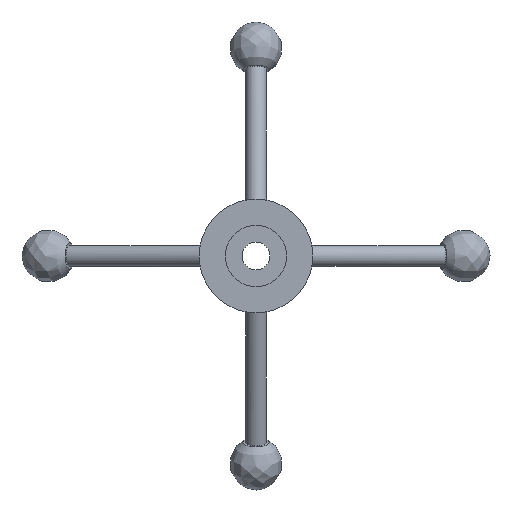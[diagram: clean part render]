
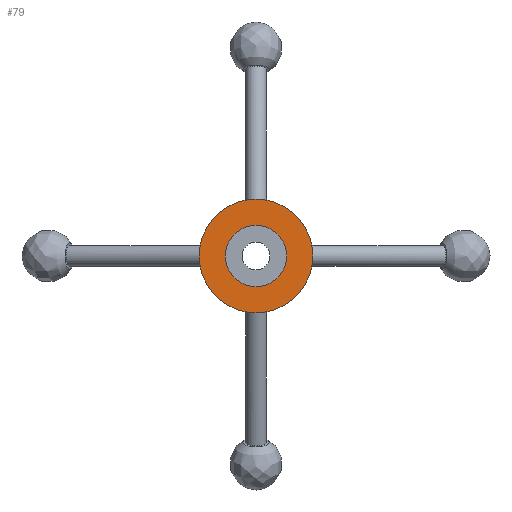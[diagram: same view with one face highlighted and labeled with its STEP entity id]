
A CAD part, front view. The second image highlights one B-rep face of the part: STEP entity #79.
In plain terms, the highlighted planar face has unit normal (0, -1, 0).
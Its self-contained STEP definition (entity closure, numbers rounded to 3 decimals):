
#79 = ADVANCED_FACE( '', ( #107, #108 ), #109, .F. );
#107 = FACE_BOUND( '', #202, .T. );
#108 = FACE_OUTER_BOUND( '', #203, .T. );
#109 = PLANE( '', #204 );
#202 = EDGE_LOOP( '', ( #370 ) );
#203 = EDGE_LOOP( '', ( #371 ) );
#204 = AXIS2_PLACEMENT_3D( '', #372, #373, #374 );
#370 = ORIENTED_EDGE( '', *, *, #446, .F. );
#371 = ORIENTED_EDGE( '', *, *, #447, .T. );
#372 = CARTESIAN_POINT( '', ( 32.5, 12., 0. ) );
#373 = DIRECTION( '', ( 0., 1., 0. ) );
#374 = DIRECTION( '', ( 0., 0., 1. ) );
#446 = EDGE_CURVE( '', #473, #473, #474, .T. );
#447 = EDGE_CURVE( '', #475, #475, #476, .T. );
#473 = VERTEX_POINT( '', #595 );
#474 = CIRCLE( '', #596, 17.5 );
#475 = VERTEX_POINT( '', #597 );
#476 = CIRCLE( '', #598, 32.5 );
#595 = CARTESIAN_POINT( '', ( 0., 12., -17.5 ) );
#596 = AXIS2_PLACEMENT_3D( '', #889, #890, #891 );
#597 = CARTESIAN_POINT( '', ( 0., 12., -32.5 ) );
#598 = AXIS2_PLACEMENT_3D( '', #892, #893, #894 );
#889 = CARTESIAN_POINT( '', ( 0., 12., 0. ) );
#890 = DIRECTION( '', ( 0., -1., 0. ) );
#891 = DIRECTION( '', ( 0., 0., -1. ) );
#892 = CARTESIAN_POINT( '', ( 0., 12., 0. ) );
#893 = DIRECTION( '', ( 0., -1., 0. ) );
#894 = DIRECTION( '', ( 0., 0., -1. ) );
